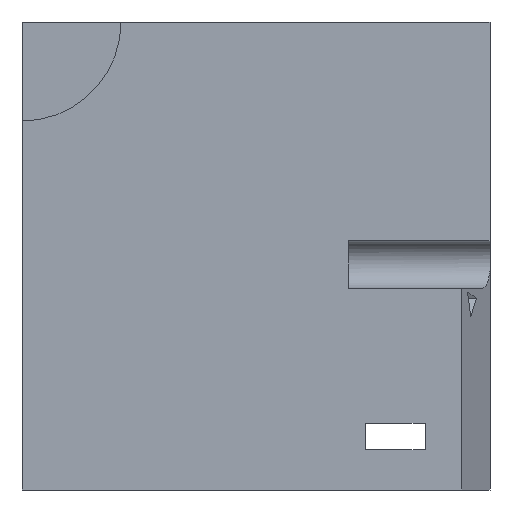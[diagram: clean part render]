
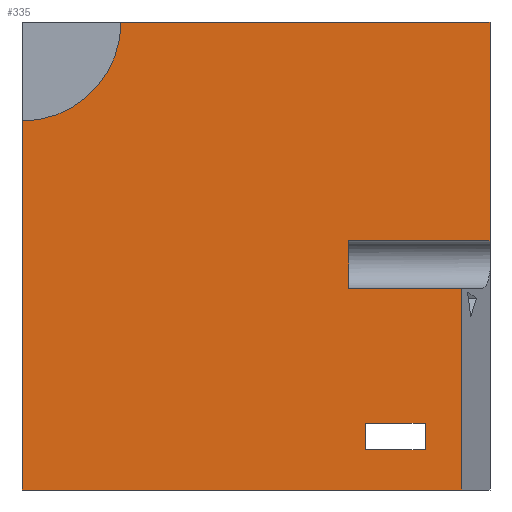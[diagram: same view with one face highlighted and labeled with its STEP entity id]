
A CAD part, left-side view. The second image highlights one B-rep face of the part: STEP entity #335.
In plain terms, the highlighted planar face has unit normal (-1, 0, 0).
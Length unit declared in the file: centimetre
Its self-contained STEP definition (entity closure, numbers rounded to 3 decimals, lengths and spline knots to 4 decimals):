
#2 = DIRECTION ( 'NONE',  ( 0., 0., -1. ) ) ;
#12 = EDGE_CURVE ( 'NONE', #1111, #495, #844, .T. ) ;
#13 = DIRECTION ( 'NONE',  ( 0., -1., 0. ) ) ;
#20 = LINE ( 'NONE', #1095, #302 ) ;
#23 = VERTEX_POINT ( 'NONE', #228 ) ;
#24 = CIRCLE ( 'NONE', #328, 211.5697 ) ;
#47 = DIRECTION ( 'NONE',  ( 1., 0., 0. ) ) ;
#61 = CARTESIAN_POINT ( 'NONE',  ( 0., 265.9296, 85.4909 ) ) ;
#62 = ORIENTED_EDGE ( 'NONE', *, *, #996, .F. ) ;
#83 = DIRECTION ( 'NONE',  ( -1., 0., 0. ) ) ;
#95 = DIRECTION ( 'NONE',  ( 0., -1., 0. ) ) ;
#98 = VECTOR ( 'NONE', #398, 100. ) ;
#102 = DIRECTION ( 'NONE',  ( 0., -1., 0. ) ) ;
#109 = DIRECTION ( 'NONE',  ( 0., 0., -1. ) ) ;
#119 = EDGE_CURVE ( 'NONE', #976, #927, #444, .T. ) ;
#123 = VERTEX_POINT ( 'NONE', #774 ) ;
#169 = EDGE_CURVE ( 'NONE', #495, #739, #431, .T. ) ;
#178 = VERTEX_POINT ( 'NONE', #870 ) ;
#192 = ORIENTED_EDGE ( 'NONE', *, *, #710, .F. ) ;
#194 = VERTEX_POINT ( 'NONE', #1156 ) ;
#196 = CARTESIAN_POINT ( 'NONE',  ( 0., 302.3429, 532.4436 ) ) ;
#223 = FACE_BOUND ( 'NONE', #719, .T. ) ;
#228 = CARTESIAN_POINT ( 'NONE',  ( 0., 265.9296, 85.4909 ) ) ;
#232 = VECTOR ( 'NONE', #590, 100. ) ;
#262 = EDGE_CURVE ( 'NONE', #976, #639, #378, .T. ) ;
#266 = VECTOR ( 'NONE', #13, 100. ) ;
#302 = VECTOR ( 'NONE', #102, 100. ) ;
#311 = CARTESIAN_POINT ( 'NONE',  ( 0., 138.6175, 85.4909 ) ) ;
#319 = VERTEX_POINT ( 'NONE', #914 ) ;
#328 = AXIS2_PLACEMENT_3D ( 'NONE', #795, #83, #337 ) ;
#335 = ADVANCED_FACE ( 'NONE', ( #223, #572 ), #479, .F. ) ;
#337 = DIRECTION ( 'NONE',  ( 0., 0., 1. ) ) ;
#341 = LINE ( 'NONE', #791, #673 ) ;
#372 = LINE ( 'NONE', #737, #619 ) ;
#378 = LINE ( 'NONE', #661, #98 ) ;
#389 = ORIENTED_EDGE ( 'NONE', *, *, #544, .F. ) ;
#398 = DIRECTION ( 'NONE',  ( 0., 0., -1. ) ) ;
#414 = CARTESIAN_POINT ( 'NONE',  ( 0., 60.4477, 431.1849 ) ) ;
#422 = VECTOR ( 'NONE', #109, 100. ) ;
#431 = LINE ( 'NONE', #599, #1131 ) ;
#439 = EDGE_CURVE ( 'NONE', #639, #918, #504, .T. ) ;
#444 = LINE ( 'NONE', #196, #266 ) ;
#447 = ORIENTED_EDGE ( 'NONE', *, *, #597, .F. ) ;
#458 = CARTESIAN_POINT ( 'NONE',  ( 0., 302.3429, 431.1849 ) ) ;
#464 = CARTESIAN_POINT ( 'NONE',  ( 0., 0., 1000. ) ) ;
#470 = VECTOR ( 'NONE', #1126, 100. ) ;
#475 = LINE ( 'NONE', #552, #581 ) ;
#479 = PLANE ( 'NONE',  #960 ) ;
#495 = VERTEX_POINT ( 'NONE', #696 ) ;
#504 = LINE ( 'NONE', #857, #470 ) ;
#524 = DIRECTION ( 'NONE',  ( 0., 0., -1. ) ) ;
#525 = ORIENTED_EDGE ( 'NONE', *, *, #1084, .T. ) ;
#544 = EDGE_CURVE ( 'NONE', #918, #991, #341, .T. ) ;
#551 = DIRECTION ( 'NONE',  ( 0., 0., -1. ) ) ;
#552 = CARTESIAN_POINT ( 'NONE',  ( 0., 1000., 1000. ) ) ;
#553 = LINE ( 'NONE', #464, #422 ) ;
#572 = FACE_OUTER_BOUND ( 'NONE', #845, .T. ) ;
#581 = VECTOR ( 'NONE', #2, 100. ) ;
#590 = DIRECTION ( 'NONE',  ( 0., 0., 1. ) ) ;
#597 = EDGE_CURVE ( 'NONE', #123, #194, #24, .T. ) ;
#599 = CARTESIAN_POINT ( 'NONE',  ( 0., 138.6175, 142.1338 ) ) ;
#613 = VECTOR ( 'NONE', #95, 100. ) ;
#619 = VECTOR ( 'NONE', #720, 100. ) ;
#627 = ORIENTED_EDGE ( 'NONE', *, *, #169, .F. ) ;
#639 = VERTEX_POINT ( 'NONE', #458 ) ;
#661 = CARTESIAN_POINT ( 'NONE',  ( 0., 302.3429, 1000. ) ) ;
#673 = VECTOR ( 'NONE', #524, 100. ) ;
#687 = EDGE_CURVE ( 'NONE', #23, #1111, #20, .T. ) ;
#695 = EDGE_CURVE ( 'NONE', #123, #178, #475, .T. ) ;
#696 = CARTESIAN_POINT ( 'NONE',  ( 0., 138.6175, 142.1338 ) ) ;
#705 = DIRECTION ( 'NONE',  ( 0., 1., 0. ) ) ;
#710 = EDGE_CURVE ( 'NONE', #194, #319, #1008, .T. ) ;
#718 = CARTESIAN_POINT ( 'NONE',  ( 0., 265.9296, 142.1338 ) ) ;
#719 = EDGE_LOOP ( 'NONE', ( #1137, #980, #929, #627 ) ) ;
#720 = DIRECTION ( 'NONE',  ( 0., -1., 0. ) ) ;
#737 = CARTESIAN_POINT ( 'NONE',  ( 0., 1000., 0. ) ) ;
#739 = VERTEX_POINT ( 'NONE', #718 ) ;
#774 = CARTESIAN_POINT ( 'NONE',  ( 0., 1000., 788.4303 ) ) ;
#791 = CARTESIAN_POINT ( 'NONE',  ( 0., 60.4477, 467.7565 ) ) ;
#795 = CARTESIAN_POINT ( 'NONE',  ( 0., 1000., 1000. ) ) ;
#818 = ORIENTED_EDGE ( 'NONE', *, *, #262, .F. ) ;
#837 = ORIENTED_EDGE ( 'NONE', *, *, #439, .F. ) ;
#839 = CARTESIAN_POINT ( 'NONE',  ( 0., 1000., 1000. ) ) ;
#844 = LINE ( 'NONE', #311, #232 ) ;
#845 = EDGE_LOOP ( 'NONE', ( #525, #389, #837, #818, #893, #62, #192, #447, #935 ) ) ;
#857 = CARTESIAN_POINT ( 'NONE',  ( 0., 302.3429, 431.1849 ) ) ;
#870 = CARTESIAN_POINT ( 'NONE',  ( 0., 1000., 0. ) ) ;
#881 = EDGE_CURVE ( 'NONE', #739, #23, #948, .T. ) ;
#891 = CARTESIAN_POINT ( 'NONE',  ( 0., 1000., 1000. ) ) ;
#893 = ORIENTED_EDGE ( 'NONE', *, *, #119, .T. ) ;
#902 = CARTESIAN_POINT ( 'NONE',  ( 0., 60.4477, 0. ) ) ;
#914 = CARTESIAN_POINT ( 'NONE',  ( 0., 0., 1000. ) ) ;
#918 = VERTEX_POINT ( 'NONE', #414 ) ;
#927 = VERTEX_POINT ( 'NONE', #1139 ) ;
#929 = ORIENTED_EDGE ( 'NONE', *, *, #881, .F. ) ;
#935 = ORIENTED_EDGE ( 'NONE', *, *, #695, .T. ) ;
#948 = LINE ( 'NONE', #61, #974 ) ;
#960 = AXIS2_PLACEMENT_3D ( 'NONE', #839, #47, #551 ) ;
#974 = VECTOR ( 'NONE', #1019, 100. ) ;
#976 = VERTEX_POINT ( 'NONE', #1115 ) ;
#980 = ORIENTED_EDGE ( 'NONE', *, *, #687, .F. ) ;
#991 = VERTEX_POINT ( 'NONE', #902 ) ;
#996 = EDGE_CURVE ( 'NONE', #319, #927, #553, .T. ) ;
#1008 = LINE ( 'NONE', #891, #613 ) ;
#1019 = DIRECTION ( 'NONE',  ( 0., 0., -1. ) ) ;
#1084 = EDGE_CURVE ( 'NONE', #178, #991, #372, .T. ) ;
#1095 = CARTESIAN_POINT ( 'NONE',  ( 0., 138.6175, 85.4909 ) ) ;
#1111 = VERTEX_POINT ( 'NONE', #1114 ) ;
#1114 = CARTESIAN_POINT ( 'NONE',  ( 0., 138.6175, 85.4909 ) ) ;
#1115 = CARTESIAN_POINT ( 'NONE',  ( 0., 302.3429, 532.4436 ) ) ;
#1126 = DIRECTION ( 'NONE',  ( 0., -1., 0. ) ) ;
#1131 = VECTOR ( 'NONE', #705, 100. ) ;
#1137 = ORIENTED_EDGE ( 'NONE', *, *, #12, .F. ) ;
#1139 = CARTESIAN_POINT ( 'NONE',  ( 0., 0., 532.4436 ) ) ;
#1156 = CARTESIAN_POINT ( 'NONE',  ( 0., 788.4303, 1000. ) ) ;
